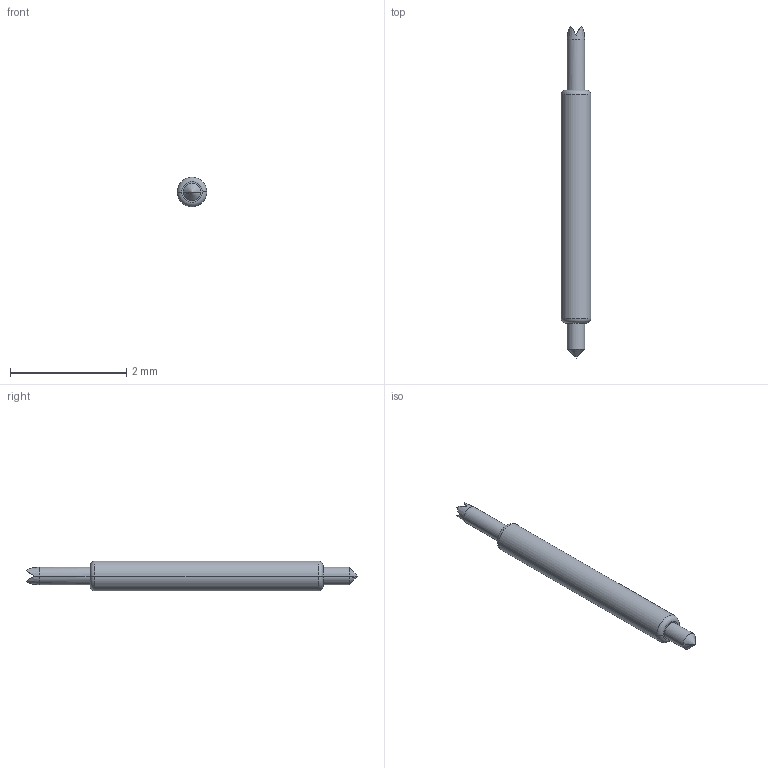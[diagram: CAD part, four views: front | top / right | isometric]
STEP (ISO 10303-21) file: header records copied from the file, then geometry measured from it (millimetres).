
FILE_DESCRIPTION((''),'2;1');
FILE_NAME('JD-SX051-116','2020-11-04T',('lenovo'),(''),'PRO/ENGINEER BY PARAMETRIC TECHNOLOGY CORPORATION, 2008380','PRO/ENGINEER BY PARAMETRIC TECHNOLOGY CORPORATION, 2008380','');
FILE_SCHEMA(('CONFIG_CONTROL_DESIGN'));
Length unit declared in the file: millimetre
Products named in the file (1): JD-SX051-116
Bounding box: 0.51 x 5.7 x 0.51 mm (x, y, z)
Volume: 0.9 mm3; surface area: 8.2 mm2
Topology: 1 solids, 1 shells, 28 faces, 60 edges, 34 vertices
Faces by surface type: plane 14, cylinder 6, cone 4, torus 4
Entity records: 798 total; most frequent: CARTESIAN_POINT 168, DIRECTION 126, ORIENTED_EDGE 116, EDGE_CURVE 58, AXIS2_PLACEMENT_3D 50, VERTEX_POINT 34, EDGE_LOOP 30, FACE_OUTER_BOUND 28
